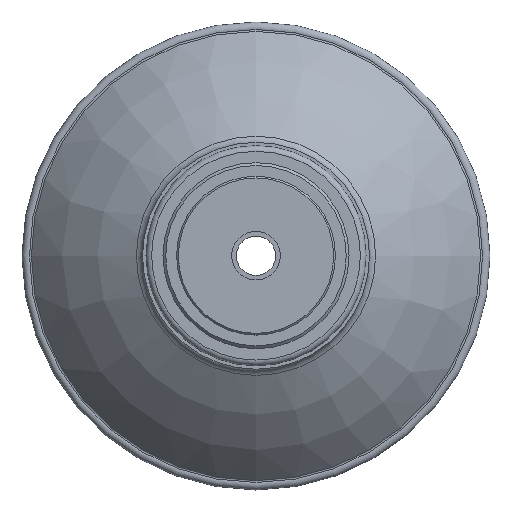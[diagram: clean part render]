
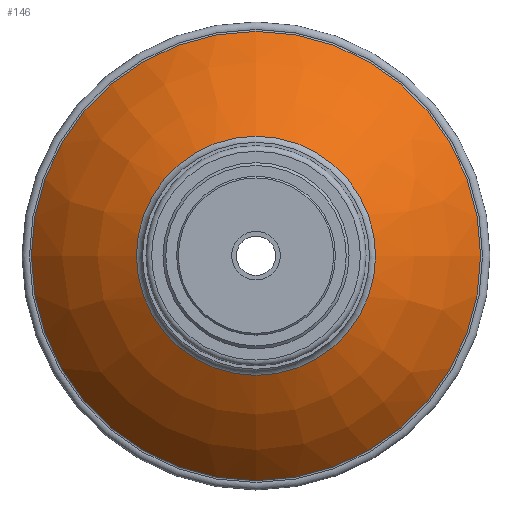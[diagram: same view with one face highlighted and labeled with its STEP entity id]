
A CAD part, top view. The second image highlights one B-rep face of the part: STEP entity #146.
In plain terms, the highlighted free-form (B-spline) face has degree [3, 3] with [4, 7] control points.
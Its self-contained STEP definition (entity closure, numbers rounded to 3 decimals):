
#146 = ADVANCED_FACE( '', ( #330, #331 ), #332, .T. );
#330 = FACE_OUTER_BOUND( '', #604, .T. );
#331 = FACE_OUTER_BOUND( '', #605, .T. );
#332 = ( BOUNDED_SURFACE(  )B_SPLINE_SURFACE( 3, 3, ( ( #608, #609, #610, #611, #612, #613, #614 ), ( #615, #616, #617, #618, #619, #620, #621 ), ( #622, #623, #624, #625, #626, #627, #628 ), ( #629, #630, #631, #632, #633, #634, #635 ) ), .UNSPECIFIED., .F., .T., .F. )B_SPLINE_SURFACE_WITH_KNOTS( ( 4, 4 ), ( 4, 3, 4 ), ( 0., 6.283 ), ( 0.647, 0.86, 1.073 ), .UNSPECIFIED. )GEOMETRIC_REPRESENTATION_ITEM(  )RATIONAL_B_SPLINE_SURFACE( ( ( 1., 0.333, 0.333, 1., 0.333, 0.333, 1. ), ( 0.985, 0.328, 0.328, 0.985, 0.328, 0.328, 0.985 ), ( 0.985, 0.328, 0.328, 0.985, 0.328, 0.328, 0.985 ), ( 1., 0.333, 0.333, 1., 0.333, 0.333, 1. ) ) )REPRESENTATION_ITEM( '' )SURFACE(  ) );
#604 = EDGE_LOOP( '', ( #948 ) );
#605 = EDGE_LOOP( '', ( #949 ) );
#608 = CARTESIAN_POINT( '', ( 21.078, 0., 0.11 ) );
#609 = CARTESIAN_POINT( '', ( 21.078, 42.155, 0.11 ) );
#610 = CARTESIAN_POINT( '', ( -21.078, 42.155, 0.11 ) );
#611 = CARTESIAN_POINT( '', ( -21.078, 0., 0.11 ) );
#612 = CARTESIAN_POINT( '', ( -21.078, -42.155, 0.11 ) );
#613 = CARTESIAN_POINT( '', ( 21.078, -42.155, 0.11 ) );
#614 = CARTESIAN_POINT( '', ( 21.078, 0., 0.11 ) );
#615 = CARTESIAN_POINT( '', ( 28.343, 0., -3.836 ) );
#616 = CARTESIAN_POINT( '', ( 28.343, 56.685, -3.836 ) );
#617 = CARTESIAN_POINT( '', ( -28.343, 56.685, -3.836 ) );
#618 = CARTESIAN_POINT( '', ( -28.343, 0., -3.836 ) );
#619 = CARTESIAN_POINT( '', ( -28.343, -56.685, -3.836 ) );
#620 = CARTESIAN_POINT( '', ( 28.343, -56.685, -3.836 ) );
#621 = CARTESIAN_POINT( '', ( 28.343, 0., -3.836 ) );
#622 = CARTESIAN_POINT( '', ( 34.609, 0., -9.23 ) );
#623 = CARTESIAN_POINT( '', ( 34.609, 69.218, -9.23 ) );
#624 = CARTESIAN_POINT( '', ( -34.609, 69.218, -9.23 ) );
#625 = CARTESIAN_POINT( '', ( -34.609, 0., -9.23 ) );
#626 = CARTESIAN_POINT( '', ( -34.609, -69.218, -9.23 ) );
#627 = CARTESIAN_POINT( '', ( 34.609, -69.218, -9.23 ) );
#628 = CARTESIAN_POINT( '', ( 34.609, 0., -9.23 ) );
#629 = CARTESIAN_POINT( '', ( 39.593, 0., -15.826 ) );
#630 = CARTESIAN_POINT( '', ( 39.593, 79.186, -15.826 ) );
#631 = CARTESIAN_POINT( '', ( -39.593, 79.186, -15.826 ) );
#632 = CARTESIAN_POINT( '', ( -39.593, 0., -15.826 ) );
#633 = CARTESIAN_POINT( '', ( -39.593, -79.186, -15.826 ) );
#634 = CARTESIAN_POINT( '', ( 39.593, -79.186, -15.826 ) );
#635 = CARTESIAN_POINT( '', ( 39.593, 0., -15.826 ) );
#948 = ORIENTED_EDGE( '', *, *, #1179, .T. );
#949 = ORIENTED_EDGE( '', *, *, #1143, .F. );
#1143 = EDGE_CURVE( '', #1261, #1261, #1262, .T. );
#1179 = EDGE_CURVE( '', #1319, #1319, #1320, .T. );
#1261 = VERTEX_POINT( '', #1429 );
#1262 = CIRCLE( '', #1430, 21.078 );
#1319 = VERTEX_POINT( '', #1487 );
#1320 = CIRCLE( '', #1488, 39.593 );
#1429 = CARTESIAN_POINT( '', ( 21.078, 0., 0.11 ) );
#1430 = AXIS2_PLACEMENT_3D( '', #1599, #1600, #1601 );
#1487 = CARTESIAN_POINT( '', ( 39.593, 0., -15.826 ) );
#1488 = AXIS2_PLACEMENT_3D( '', #1665, #1666, #1667 );
#1599 = CARTESIAN_POINT( '', ( 0., 0., 0.11 ) );
#1600 = DIRECTION( '', ( 0., 0., 1. ) );
#1601 = DIRECTION( '', ( 1., 0., 0. ) );
#1665 = CARTESIAN_POINT( '', ( 0., 0., -15.826 ) );
#1666 = DIRECTION( '', ( 0., 0., 1. ) );
#1667 = DIRECTION( '', ( 1., 0., 0. ) );
